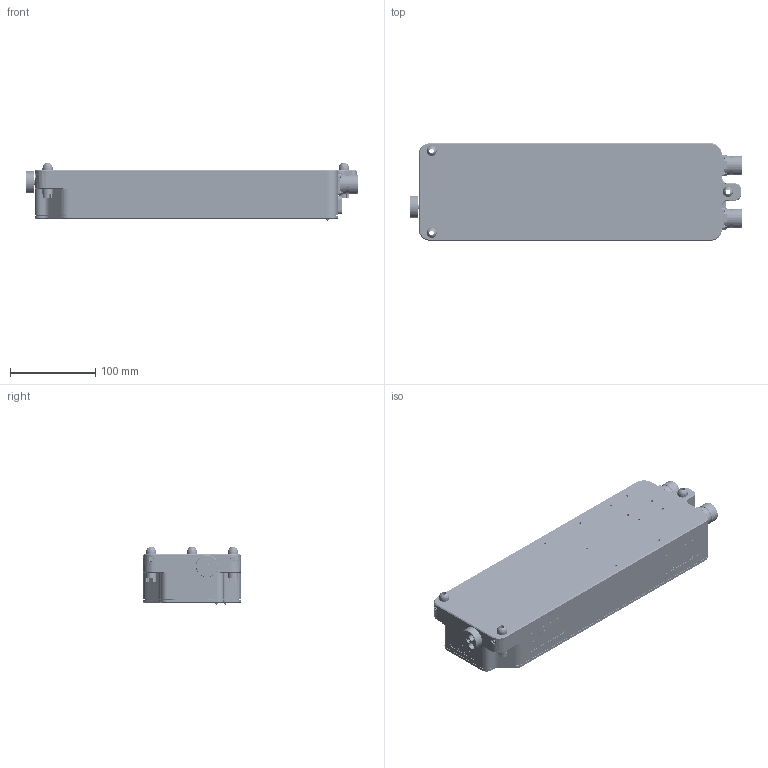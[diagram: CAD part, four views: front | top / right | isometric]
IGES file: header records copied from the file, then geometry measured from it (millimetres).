
Global section: file name: Y:\_LCPD Drawings\13.1 Lightweight Models\8003\LA-8003-3155  HS20\LA_8003_3155_C.igs; native system: NX V7.5; preprocessor: SIEMENS PLM Software NX 7.5; date: 20120503.121152; units: millimetre
Bounding box: 388.85 x 114 x 67 mm (x, y, z)
Surface area: 160823.9 mm2 (no closed solid volume)
Topology: 0 solids, 0 shells, 6847 faces, 39414 edges, 39188 vertices
Faces by surface type: bspline 5897, revolution 950
